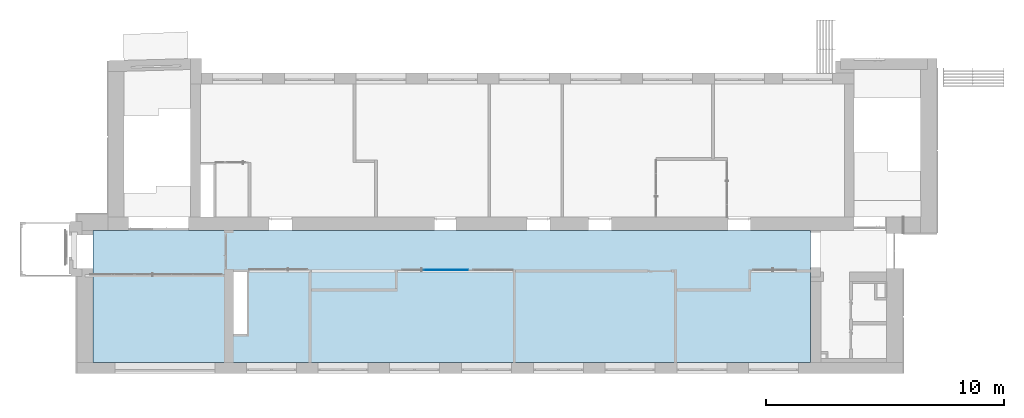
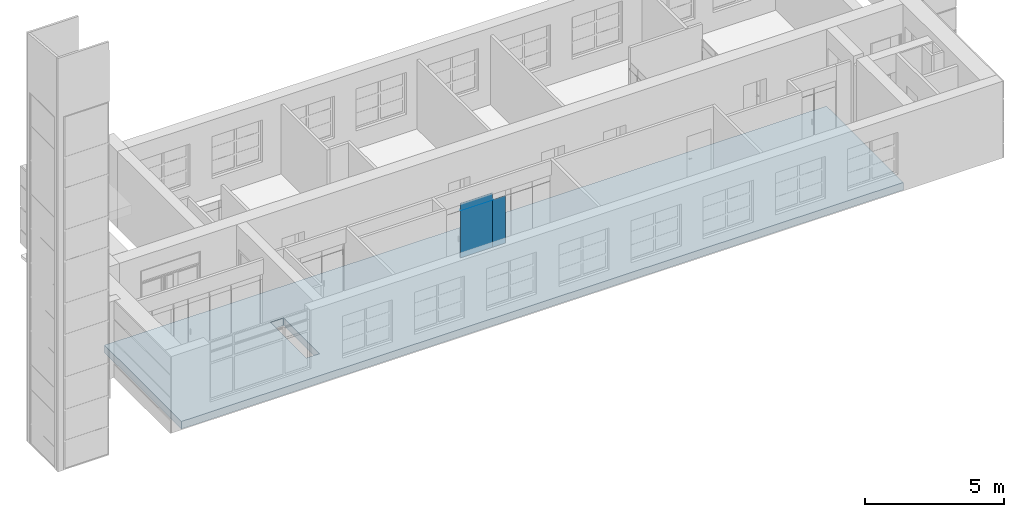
# One storey, part 20 of 66: 4 plates, 1 slab, 1 opening, 1 element without a shape of its own.
"""IFC2X3 building model written with IfcOpenShell, lengths in millimetres."""

from ifc_helpers import new_model, entity, si_unit, converted_unit, derived_unit, direction, frame, frame_2d, origin, origin_2d_with_axis, place, context, subcontext, project, spatial, rectangle, extrude, source, transform, mapped, material, layer, layer_set, layer_usage, type_object, type_shapes, element, aggregate, save


model = new_model("IFC2X3")

# Units and contexts
model_context = context("Model", 3, precision=0.01, world=origin(), true_north=direction((6.12303176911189e-17, 1.0)))
body_context = subcontext(model_context, "Body", "Model", "MODEL_VIEW")
ifc_project = project(units=[si_unit("LENGTHUNIT", "METRE", prefix="MILLI"), si_unit("AREAUNIT", "SQUARE_METRE"), si_unit("VOLUMEUNIT", "CUBIC_METRE"), converted_unit("PLANEANGLEUNIT", "DEGREE", entity("IfcRatioMeasure", 0.0174532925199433), si_unit("PLANEANGLEUNIT", "RADIAN"), dimensions=[0, 0, 0, 0, 0, 0, 0]), si_unit("MASSUNIT", "GRAM", prefix="KILO"), derived_unit("MASSDENSITYUNIT", [(si_unit("MASSUNIT", "GRAM", prefix="KILO"), 1), (si_unit("LENGTHUNIT", "METRE"), -3)]), si_unit("TIMEUNIT", "SECOND"), si_unit("FREQUENCYUNIT", "HERTZ"), si_unit("THERMODYNAMICTEMPERATUREUNIT", "DEGREE_CELSIUS"), derived_unit("THERMALTRANSMITTANCEUNIT", [(si_unit("MASSUNIT", "GRAM", prefix="KILO"), 1), (si_unit("THERMODYNAMICTEMPERATUREUNIT", "KELVIN"), -1), (si_unit("TIMEUNIT", "SECOND"), -3)]), derived_unit("VOLUMETRICFLOWRATEUNIT", [(si_unit("LENGTHUNIT", "METRE"), 3), (si_unit("TIMEUNIT", "SECOND"), -1)]), si_unit("ELECTRICCURRENTUNIT", "AMPERE"), si_unit("ELECTRICVOLTAGEUNIT", "VOLT"), si_unit("POWERUNIT", "WATT"), si_unit("FORCEUNIT", "NEWTON", prefix="KILO"), si_unit("ILLUMINANCEUNIT", "LUX"), si_unit("LUMINOUSFLUXUNIT", "LUMEN"), si_unit("LUMINOUSINTENSITYUNIT", "CANDELA"), derived_unit("USERDEFINED", [(si_unit("MASSUNIT", "GRAM", prefix="KILO"), -1), (si_unit("LENGTHUNIT", "METRE"), -2), (si_unit("TIMEUNIT", "SECOND"), 3), (si_unit("LUMINOUSFLUXUNIT", "LUMEN"), 1)]), derived_unit("LINEARVELOCITYUNIT", [(si_unit("LENGTHUNIT", "METRE"), 1), (si_unit("TIMEUNIT", "SECOND"), -1)]), si_unit("PRESSUREUNIT", "PASCAL"), derived_unit("USERDEFINED", [(si_unit("LENGTHUNIT", "METRE"), -2), (si_unit("MASSUNIT", "GRAM", prefix="KILO"), 1), (si_unit("TIMEUNIT", "SECOND"), -2)])], contexts=[model_context])

# Site, building, storey
site_placement = place(None, frame((-151.875543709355, 2715.0, 0.0)))
site = spatial("IfcSite", under=ifc_project, at=site_placement, Name="Surface", CompositionType="ELEMENT")
building_placement = place(site_placement, origin())
building = spatial("IfcBuilding", under=site, at=building_placement, CompositionType="ELEMENT")
storey_placement = place(building_placement, frame((0.0, 0.0, 3350.0)))
storey = spatial("IfcBuildingStorey", under=building, at=storey_placement, Name="2 korrus", CompositionType="ELEMENT", Elevation=3350.00000000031)

# Curtain wall, plates
curtain_wall_type = type_object("IfcCurtainWallType", Name="Curtain Wall:Klaassein KLS-09", PredefinedType="NOTDEFINED")
curtain_wall_placement = place(storey_placement, frame((0.0, 0.0, -3350.0)))
curtain_wall = element("IfcCurtainWall", 1, at=curtain_wall_placement, inside=storey, type_object=curtain_wall_type, Name="Curtain Wall:Klaassein KLS-09", ObjectType="Curtain Wall:Klaassein KLS-09")
ifc_material_1 = material(Name="<Unnamed>")
ifc_layer_1 = layer(ifc_material_1, 20.0)
ifc_layer_set_1 = layer_set([ifc_layer_1], Name="Curtain Wall:Klaassein KLS-01")
ifc_layer_usage_1 = layer_usage(ifc_layer_set_1, "AXIS3", "POSITIVE", 0.0)
plate_type_1 = type_object("IfcPlateType", Name="Glazed", PredefinedType="CURTAIN_PANEL", material=ifc_layer_set_1)
shared_shape_1 = source(origin(), body_context, "Body", "SweptSolid", [
    extrude(rectangle(XDim=20.0, YDim=1345.00943870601, at=origin_2d_with_axis()), frame((0.0, 0.0, 0.0), z_axis=(0.0, 0.0, 1.0), x_axis=(0.0, 1.0, 0.0)), (0.0, 0.0, 1.0), 2090.0),
])
type_shapes(plate_type_1, [shared_shape_1])
plate_1_placement = place(curtain_wall_placement, frame((15001.060007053, 4352.04493399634, 3350.0)))
plate_1 = element("IfcPlate", 2, at=plate_1_placement, type_object=plate_type_1, material=ifc_layer_usage_1, Name="System Panel:Glazed", ObjectType="Glazed", context=body_context, shape_type="MappedRepresentation", body=[
    mapped(shared_shape_1, transform((0.0, 0.0, 0.0), scale=1.0)),
])
ifc_layer_usage_2 = layer_usage(ifc_layer_set_1, "AXIS3", "POSITIVE", 0.0)
plate_type_2 = type_object("IfcPlateType", Name="Glazed", PredefinedType="CURTAIN_PANEL", material=ifc_layer_set_1)
shared_shape_2 = source(origin(), body_context, "Body", "SweptSolid", [
    extrude(rectangle(XDim=20.0, YDim=528.919881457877, at=origin_2d_with_axis()), frame((0.0, 0.0, 0.0), z_axis=(0.0, 0.0, 1.0), x_axis=(0.0, 1.0, 0.0)), (0.0, 0.0, 1.0), 2090.0),
])
type_shapes(plate_type_2, [shared_shape_2])
plate_2_placement = place(curtain_wall_placement, frame((15938.024667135, 4352.04493399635, 3350.0)))
plate_2 = element("IfcPlate", 3, at=plate_2_placement, type_object=plate_type_2, material=ifc_layer_usage_2, Name="System Panel:Glazed", ObjectType="Glazed", context=body_context, shape_type="MappedRepresentation", body=[
    mapped(shared_shape_2, transform((0.0, 0.0, 0.0), scale=1.0)),
])
ifc_layer_usage_3 = layer_usage(ifc_layer_set_1, "AXIS3", "POSITIVE", 0.0)
plate_type_3 = type_object("IfcPlateType", Name="Glazed", PredefinedType="CURTAIN_PANEL", material=ifc_layer_set_1)
shared_shape_3 = source(origin(), body_context, "Body", "SweptSolid", [
    extrude(rectangle(XDim=20.0, YDim=1345.00943870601, at=origin_2d_with_axis()), frame((0.0, 0.0, 0.0), z_axis=(0.0, 0.0, 1.0), x_axis=(0.0, 1.0, 0.0)), (0.0, 0.0, 1.0), 9.99999999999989),
])
type_shapes(plate_type_3, [shared_shape_3])
plate_3_placement = place(curtain_wall_placement, frame((15001.060007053, 4352.04493399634, 5440.0)))
plate_3 = element("IfcPlate", 4, at=plate_3_placement, type_object=plate_type_3, material=ifc_layer_usage_3, Name="System Panel:Glazed", ObjectType="Glazed", context=body_context, shape_type="MappedRepresentation", body=[
    mapped(shared_shape_3, transform((0.0, 0.0, 0.0), scale=1.0)),
])
ifc_layer_usage_4 = layer_usage(ifc_layer_set_1, "AXIS3", "POSITIVE", 0.0)
plate_type_4 = type_object("IfcPlateType", Name="Glazed", PredefinedType="CURTAIN_PANEL", material=ifc_layer_set_1)
shared_shape_4 = source(origin(), body_context, "Body", "SweptSolid", [
    extrude(rectangle(XDim=20.0, YDim=1345.00943870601, at=origin_2d_with_axis()), frame((0.0, 0.0, 0.0), z_axis=(0.0, 0.0, 1.0), x_axis=(0.0, 1.0, 0.0)), (0.0, 0.0, 1.0), 299.999999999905),
])
type_shapes(plate_type_4, [shared_shape_4])
plate_4_placement = place(curtain_wall_placement, frame((15001.060007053, 4352.04493399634, 5450.0)))
plate_4 = element("IfcPlate", 5, at=plate_4_placement, type_object=plate_type_4, material=ifc_layer_usage_4, Name="System Panel:Glazed", ObjectType="Glazed", context=body_context, shape_type="MappedRepresentation", body=[
    mapped(shared_shape_4, transform((0.0, 0.0, 0.0), scale=1.0)),
])
aggregate(curtain_wall, [plate_1, plate_2, plate_3, plate_4])

# Slab, opening
ifc_material_2 = material(Name="Viimistlus")
ifc_layer_2 = layer(ifc_material_2, 20.0)
ifc_material_3 = material(Name="Betoon")
ifc_layer_3 = layer(ifc_material_3, 30.0)
ifc_material_4 = material(Name="Helisummutusvill")
ifc_layer_4 = layer(ifc_material_4, 30.0)
ifc_material_5 = material(Name="__Kergkruus")
ifc_layer_5 = layer(ifc_material_5, 30.0)
ifc_material_6 = material(Name="Betoon paneel")
ifc_layer_6 = layer(ifc_material_6, 220.0)
ifc_layer_set_2 = layer_set([ifc_layer_2, ifc_layer_3, ifc_layer_4, ifc_layer_5, ifc_layer_6], Name="Floor:VL-1_vahelagi olemasolevas hoones")
ifc_layer_usage_5 = layer_usage(ifc_layer_set_2, "AXIS3", "POSITIVE", 0.0)
slab_placement = place(storey_placement, frame((459.875545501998, 459.904632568, -330.0)))
slab = element("IfcSlab", 6, at=slab_placement, inside=storey, material=ifc_layer_usage_5, Name="Floor:VL-1_vahelagi olemasolevas hoones", ObjectType="Floor:VL-1_vahelagi olemasolevas hoones", PredefinedType="FLOOR", context=body_context, shape_type="SweptSolid", body=[
    extrude(rectangle(XDim=30084.1416139, YDim=5550.09536743, at=frame_2d((0.0, 0.0), x_axis=(-1.0, 0.0))), frame((15042.07080695, 2775.047683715, 330.0), z_axis=(0.0, 0.0, -1.0), x_axis=(-1.0, 0.0, 0.0)), (0.0, 0.0, 1.0), 330.0),
])
opening_placement = place(storey_placement, frame((459.875545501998, 459.904632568, -330.0)))
element("IfcOpeningElement", 7, at=opening_placement, cuts=slab, ObjectType="Opening", context=body_context, shape_type="SweptSolid", body=[
    extrude(rectangle(XDim=2600.0, YDim=549.999999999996, at=frame_2d((8864.452823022, -270.152909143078), x_axis=(0.0, 1.0))), frame((15042.07080695, 2775.047683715, 330.0), z_axis=(0.0, 0.0, -1.0), x_axis=(-1.0, 0.0, 0.0)), (0.0, 0.0, 1.0), 330.0),
])

save(model, "model.ifc")
